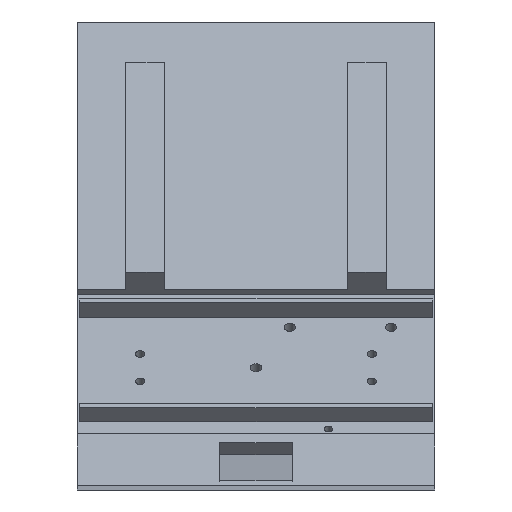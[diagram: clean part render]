
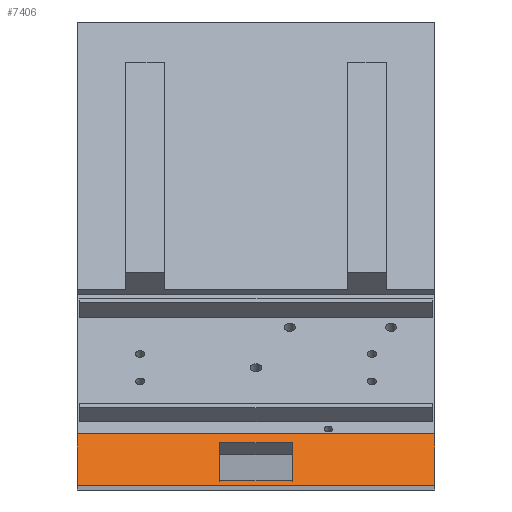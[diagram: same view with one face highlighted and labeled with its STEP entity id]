
A CAD part, front view. The second image highlights one B-rep face of the part: STEP entity #7406.
In plain terms, the highlighted planar face has unit normal (0, -0.707, 0.707).
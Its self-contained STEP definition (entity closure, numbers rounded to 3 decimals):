
#1699 = PLANE('',#1700);
#1700 = AXIS2_PLACEMENT_3D('',#1701,#1702,#1703);
#1701 = CARTESIAN_POINT('',(7.5,-53.202,3.991));
#1702 = DIRECTION('',(1.,0.,0.));
#1703 = DIRECTION('',(0.,0.707,0.707));
#1727 = PLANE('',#1728);
#1728 = AXIS2_PLACEMENT_3D('',#1729,#1730,#1731);
#1729 = CARTESIAN_POINT('',(-7.5,-53.202,3.991));
#1730 = DIRECTION('',(0.,0.707,0.707));
#1731 = DIRECTION('',(1.,0.,0.));
#1755 = PLANE('',#1756);
#1756 = AXIS2_PLACEMENT_3D('',#1757,#1758,#1759);
#1757 = CARTESIAN_POINT('',(-7.5,-53.202,3.991));
#1758 = DIRECTION('',(1.,0.,0.));
#1759 = DIRECTION('',(0.,0.707,0.707));
#2633 = PLANE('',#2634);
#2634 = AXIS2_PLACEMENT_3D('',#2635,#2636,#2637);
#2635 = CARTESIAN_POINT('',(-37.,-52.,0.95));
#2636 = DIRECTION('',(-0.,1.,0.));
#2637 = DIRECTION('',(0.,0.,-1.));
#2661 = PLANE('',#2662);
#2662 = AXIS2_PLACEMENT_3D('',#2663,#2664,#2665);
#2663 = CARTESIAN_POINT('',(37.,12.992,33.779));
#2664 = DIRECTION('',(1.,0.,0.));
#2665 = DIRECTION('',(-0.,0.,1.));
#2715 = PLANE('',#2716);
#2716 = AXIS2_PLACEMENT_3D('',#2717,#2718,#2719);
#2717 = CARTESIAN_POINT('',(-37.,12.992,33.779));
#2718 = DIRECTION('',(1.,0.,0.));
#2719 = DIRECTION('',(-0.,0.,1.));
#3644 = PLANE('',#3645);
#3645 = AXIS2_PLACEMENT_3D('',#3646,#3647,#3648);
#3646 = CARTESIAN_POINT('',(-7.5,-45.282,11.91));
#3647 = DIRECTION('',(0.,0.707,0.707));
#3648 = DIRECTION('',(1.,0.,0.));
#4627 = VERTEX_POINT('',#4628);
#4628 = CARTESIAN_POINT('',(7.5,-43.161,9.789));
#4649 = EDGE_CURVE('',#4627,#4650,#4652,.T.);
#4650 = VERTEX_POINT('',#4651);
#4651 = CARTESIAN_POINT('',(7.5,-51.081,1.869));
#4652 = SURFACE_CURVE('',#4653,(#4657,#4664),.PCURVE_S1.);
#4653 = LINE('',#4654,#4655);
#4654 = CARTESIAN_POINT('',(7.5,-3.54,49.41));
#4655 = VECTOR('',#4656,1.);
#4656 = DIRECTION('',(0.,-0.707,-0.707));
#4657 = PCURVE('',#1699,#4658);
#4658 = DEFINITIONAL_REPRESENTATION('',(#4659),#4663);
#4659 = LINE('',#4660,#4661);
#4660 = CARTESIAN_POINT('',(67.232,-3.));
#4661 = VECTOR('',#4662,1.);
#4662 = DIRECTION('',(-1.,0.));
#4663 = ( GEOMETRIC_REPRESENTATION_CONTEXT(2) 
PARAMETRIC_REPRESENTATION_CONTEXT() REPRESENTATION_CONTEXT('2D SPACE',''
  ) );
#4664 = PCURVE('',#4665,#4670);
#4665 = PLANE('',#4666);
#4666 = AXIS2_PLACEMENT_3D('',#4667,#4668,#4669);
#4667 = CARTESIAN_POINT('',(-37.,44.,96.95));
#4668 = DIRECTION('',(0.,0.707,-0.707));
#4669 = DIRECTION('',(0.,-0.707,-0.707));
#4670 = DEFINITIONAL_REPRESENTATION('',(#4671),#4675);
#4671 = LINE('',#4672,#4673);
#4672 = CARTESIAN_POINT('',(67.232,-44.5));
#4673 = VECTOR('',#4674,1.);
#4674 = DIRECTION('',(1.,0.));
#4675 = ( GEOMETRIC_REPRESENTATION_CONTEXT(2) 
PARAMETRIC_REPRESENTATION_CONTEXT() REPRESENTATION_CONTEXT('2D SPACE',''
  ) );
#4705 = VERTEX_POINT('',#4706);
#4706 = CARTESIAN_POINT('',(-7.5,-51.081,1.869));
#4727 = EDGE_CURVE('',#4705,#4650,#4728,.T.);
#4728 = SURFACE_CURVE('',#4729,(#4733,#4740),.PCURVE_S1.);
#4729 = LINE('',#4730,#4731);
#4730 = CARTESIAN_POINT('',(-22.25,-51.081,1.869));
#4731 = VECTOR('',#4732,1.);
#4732 = DIRECTION('',(1.,-0.,0.));
#4733 = PCURVE('',#1727,#4734);
#4734 = DEFINITIONAL_REPRESENTATION('',(#4735),#4739);
#4735 = LINE('',#4736,#4737);
#4736 = CARTESIAN_POINT('',(-14.75,3.));
#4737 = VECTOR('',#4738,1.);
#4738 = DIRECTION('',(1.,0.));
#4739 = ( GEOMETRIC_REPRESENTATION_CONTEXT(2) 
PARAMETRIC_REPRESENTATION_CONTEXT() REPRESENTATION_CONTEXT('2D SPACE',''
  ) );
#4740 = PCURVE('',#4665,#4741);
#4741 = DEFINITIONAL_REPRESENTATION('',(#4742),#4746);
#4742 = LINE('',#4743,#4744);
#4743 = CARTESIAN_POINT('',(134.465,-14.75));
#4744 = VECTOR('',#4745,1.);
#4745 = DIRECTION('',(0.,-1.));
#4746 = ( GEOMETRIC_REPRESENTATION_CONTEXT(2) 
PARAMETRIC_REPRESENTATION_CONTEXT() REPRESENTATION_CONTEXT('2D SPACE',''
  ) );
#4754 = VERTEX_POINT('',#4755);
#4755 = CARTESIAN_POINT('',(-7.5,-43.161,9.789));
#4776 = EDGE_CURVE('',#4754,#4705,#4777,.T.);
#4777 = SURFACE_CURVE('',#4778,(#4782,#4789),.PCURVE_S1.);
#4778 = LINE('',#4779,#4780);
#4779 = CARTESIAN_POINT('',(-7.5,-3.54,49.41));
#4780 = VECTOR('',#4781,1.);
#4781 = DIRECTION('',(0.,-0.707,-0.707));
#4782 = PCURVE('',#1755,#4783);
#4783 = DEFINITIONAL_REPRESENTATION('',(#4784),#4788);
#4784 = LINE('',#4785,#4786);
#4785 = CARTESIAN_POINT('',(67.232,-3.));
#4786 = VECTOR('',#4787,1.);
#4787 = DIRECTION('',(-1.,0.));
#4788 = ( GEOMETRIC_REPRESENTATION_CONTEXT(2) 
PARAMETRIC_REPRESENTATION_CONTEXT() REPRESENTATION_CONTEXT('2D SPACE',''
  ) );
#4789 = PCURVE('',#4665,#4790);
#4790 = DEFINITIONAL_REPRESENTATION('',(#4791),#4795);
#4791 = LINE('',#4792,#4793);
#4792 = CARTESIAN_POINT('',(67.232,-29.5));
#4793 = VECTOR('',#4794,1.);
#4794 = DIRECTION('',(1.,0.));
#4795 = ( GEOMETRIC_REPRESENTATION_CONTEXT(2) 
PARAMETRIC_REPRESENTATION_CONTEXT() REPRESENTATION_CONTEXT('2D SPACE',''
  ) );
#6567 = EDGE_CURVE('',#6568,#6570,#6572,.T.);
#6568 = VERTEX_POINT('',#6569);
#6569 = CARTESIAN_POINT('',(-37.,-52.,0.95));
#6570 = VERTEX_POINT('',#6571);
#6571 = CARTESIAN_POINT('',(37.,-52.,0.95));
#6572 = SURFACE_CURVE('',#6573,(#6577,#6584),.PCURVE_S1.);
#6573 = LINE('',#6574,#6575);
#6574 = CARTESIAN_POINT('',(-37.,-52.,0.95));
#6575 = VECTOR('',#6576,1.);
#6576 = DIRECTION('',(1.,0.,0.));
#6577 = PCURVE('',#2633,#6578);
#6578 = DEFINITIONAL_REPRESENTATION('',(#6579),#6583);
#6579 = LINE('',#6580,#6581);
#6580 = CARTESIAN_POINT('',(0.,0.));
#6581 = VECTOR('',#6582,1.);
#6582 = DIRECTION('',(0.,-1.));
#6583 = ( GEOMETRIC_REPRESENTATION_CONTEXT(2) 
PARAMETRIC_REPRESENTATION_CONTEXT() REPRESENTATION_CONTEXT('2D SPACE',''
  ) );
#6584 = PCURVE('',#4665,#6585);
#6585 = DEFINITIONAL_REPRESENTATION('',(#6586),#6590);
#6586 = LINE('',#6587,#6588);
#6587 = CARTESIAN_POINT('',(135.765,0.));
#6588 = VECTOR('',#6589,1.);
#6589 = DIRECTION('',(0.,-1.));
#6590 = ( GEOMETRIC_REPRESENTATION_CONTEXT(2) 
PARAMETRIC_REPRESENTATION_CONTEXT() REPRESENTATION_CONTEXT('2D SPACE',''
  ) );
#6638 = EDGE_CURVE('',#6639,#6570,#6641,.T.);
#6639 = VERTEX_POINT('',#6640);
#6640 = CARTESIAN_POINT('',(37.,-41.323,11.627));
#6641 = SURFACE_CURVE('',#6642,(#6646,#6653),.PCURVE_S1.);
#6642 = LINE('',#6643,#6644);
#6643 = CARTESIAN_POINT('',(37.,44.,96.95));
#6644 = VECTOR('',#6645,1.);
#6645 = DIRECTION('',(0.,-0.707,-0.707));
#6646 = PCURVE('',#2661,#6647);
#6647 = DEFINITIONAL_REPRESENTATION('',(#6648),#6652);
#6648 = LINE('',#6649,#6650);
#6649 = CARTESIAN_POINT('',(63.171,-31.008));
#6650 = VECTOR('',#6651,1.);
#6651 = DIRECTION('',(-0.707,0.707));
#6652 = ( GEOMETRIC_REPRESENTATION_CONTEXT(2) 
PARAMETRIC_REPRESENTATION_CONTEXT() REPRESENTATION_CONTEXT('2D SPACE',''
  ) );
#6653 = PCURVE('',#4665,#6654);
#6654 = DEFINITIONAL_REPRESENTATION('',(#6655),#6659);
#6655 = LINE('',#6656,#6657);
#6656 = CARTESIAN_POINT('',(0.,-74.));
#6657 = VECTOR('',#6658,1.);
#6658 = DIRECTION('',(1.,0.));
#6659 = ( GEOMETRIC_REPRESENTATION_CONTEXT(2) 
PARAMETRIC_REPRESENTATION_CONTEXT() REPRESENTATION_CONTEXT('2D SPACE',''
  ) );
#6812 = PLANE('',#6813);
#6813 = AXIS2_PLACEMENT_3D('',#6814,#6815,#6816);
#6814 = CARTESIAN_POINT('',(-37.1,-45.495,15.799));
#6815 = DIRECTION('',(0.,0.707,0.707));
#6816 = DIRECTION('',(1.,0.,0.));
#6876 = EDGE_CURVE('',#6877,#6568,#6879,.T.);
#6877 = VERTEX_POINT('',#6878);
#6878 = CARTESIAN_POINT('',(-37.,-41.323,11.627));
#6879 = SURFACE_CURVE('',#6880,(#6884,#6891),.PCURVE_S1.);
#6880 = LINE('',#6881,#6882);
#6881 = CARTESIAN_POINT('',(-37.,44.,96.95));
#6882 = VECTOR('',#6883,1.);
#6883 = DIRECTION('',(0.,-0.707,-0.707));
#6884 = PCURVE('',#2715,#6885);
#6885 = DEFINITIONAL_REPRESENTATION('',(#6886),#6890);
#6886 = LINE('',#6887,#6888);
#6887 = CARTESIAN_POINT('',(63.171,-31.008));
#6888 = VECTOR('',#6889,1.);
#6889 = DIRECTION('',(-0.707,0.707));
#6890 = ( GEOMETRIC_REPRESENTATION_CONTEXT(2) 
PARAMETRIC_REPRESENTATION_CONTEXT() REPRESENTATION_CONTEXT('2D SPACE',''
  ) );
#6891 = PCURVE('',#4665,#6892);
#6892 = DEFINITIONAL_REPRESENTATION('',(#6893),#6897);
#6893 = LINE('',#6894,#6895);
#6894 = CARTESIAN_POINT('',(0.,0.));
#6895 = VECTOR('',#6896,1.);
#6896 = DIRECTION('',(1.,0.));
#6897 = ( GEOMETRIC_REPRESENTATION_CONTEXT(2) 
PARAMETRIC_REPRESENTATION_CONTEXT() REPRESENTATION_CONTEXT('2D SPACE',''
  ) );
#7253 = EDGE_CURVE('',#4754,#4627,#7254,.T.);
#7254 = SURFACE_CURVE('',#7255,(#7259,#7266),.PCURVE_S1.);
#7255 = LINE('',#7256,#7257);
#7256 = CARTESIAN_POINT('',(-22.25,-43.161,9.789));
#7257 = VECTOR('',#7258,1.);
#7258 = DIRECTION('',(1.,-0.,0.));
#7259 = PCURVE('',#3644,#7260);
#7260 = DEFINITIONAL_REPRESENTATION('',(#7261),#7265);
#7261 = LINE('',#7262,#7263);
#7262 = CARTESIAN_POINT('',(-14.75,3.));
#7263 = VECTOR('',#7264,1.);
#7264 = DIRECTION('',(1.,0.));
#7265 = ( GEOMETRIC_REPRESENTATION_CONTEXT(2) 
PARAMETRIC_REPRESENTATION_CONTEXT() REPRESENTATION_CONTEXT('2D SPACE',''
  ) );
#7266 = PCURVE('',#4665,#7267);
#7267 = DEFINITIONAL_REPRESENTATION('',(#7268),#7272);
#7268 = LINE('',#7269,#7270);
#7269 = CARTESIAN_POINT('',(123.265,-14.75));
#7270 = VECTOR('',#7271,1.);
#7271 = DIRECTION('',(0.,-1.));
#7272 = ( GEOMETRIC_REPRESENTATION_CONTEXT(2) 
PARAMETRIC_REPRESENTATION_CONTEXT() REPRESENTATION_CONTEXT('2D SPACE',''
  ) );
#7406 = ADVANCED_FACE('',(#7407,#7433),#4665,.F.);
#7407 = FACE_BOUND('',#7408,.F.);
#7408 = EDGE_LOOP('',(#7409,#7410,#7431,#7432));
#7409 = ORIENTED_EDGE('',*,*,#6876,.F.);
#7410 = ORIENTED_EDGE('',*,*,#7411,.T.);
#7411 = EDGE_CURVE('',#6877,#6639,#7412,.T.);
#7412 = SURFACE_CURVE('',#7413,(#7417,#7424),.PCURVE_S1.);
#7413 = LINE('',#7414,#7415);
#7414 = CARTESIAN_POINT('',(-37.05,-41.323,11.627));
#7415 = VECTOR('',#7416,1.);
#7416 = DIRECTION('',(1.,-0.,0.));
#7417 = PCURVE('',#4665,#7418);
#7418 = DEFINITIONAL_REPRESENTATION('',(#7419),#7423);
#7419 = LINE('',#7420,#7421);
#7420 = CARTESIAN_POINT('',(120.665,0.05));
#7421 = VECTOR('',#7422,1.);
#7422 = DIRECTION('',(0.,-1.));
#7423 = ( GEOMETRIC_REPRESENTATION_CONTEXT(2) 
PARAMETRIC_REPRESENTATION_CONTEXT() REPRESENTATION_CONTEXT('2D SPACE',''
  ) );
#7424 = PCURVE('',#6812,#7425);
#7425 = DEFINITIONAL_REPRESENTATION('',(#7426),#7430);
#7426 = LINE('',#7427,#7428);
#7427 = CARTESIAN_POINT('',(0.05,5.9));
#7428 = VECTOR('',#7429,1.);
#7429 = DIRECTION('',(1.,0.));
#7430 = ( GEOMETRIC_REPRESENTATION_CONTEXT(2) 
PARAMETRIC_REPRESENTATION_CONTEXT() REPRESENTATION_CONTEXT('2D SPACE',''
  ) );
#7431 = ORIENTED_EDGE('',*,*,#6638,.T.);
#7432 = ORIENTED_EDGE('',*,*,#6567,.F.);
#7433 = FACE_BOUND('',#7434,.F.);
#7434 = EDGE_LOOP('',(#7435,#7436,#7437,#7438));
#7435 = ORIENTED_EDGE('',*,*,#7253,.F.);
#7436 = ORIENTED_EDGE('',*,*,#4776,.T.);
#7437 = ORIENTED_EDGE('',*,*,#4727,.T.);
#7438 = ORIENTED_EDGE('',*,*,#4649,.F.);
